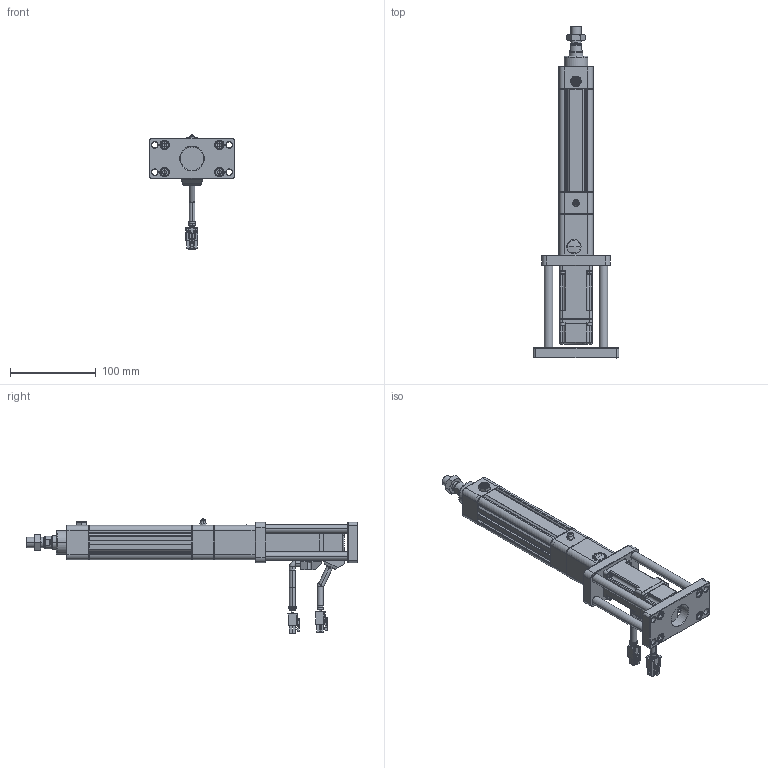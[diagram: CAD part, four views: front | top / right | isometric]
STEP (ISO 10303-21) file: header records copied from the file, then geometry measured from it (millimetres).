
FILE_DESCRIPTION((''),'2;1');
FILE_NAME('HE32-D-100-2-5_ASM','2020-04-30T',('ASUS20200'),(''),'CREO PARAMETRIC BY PTC INC, 2014190','CREO PARAMETRIC BY PTC INC, 2014190','');
FILE_SCHEMA(('CONFIG_CONTROL_DESIGN'));
Length unit declared in the file: millimetre
Products named in the file (28): HE32-001-X1; HE32-002-X1; HE32-003-X1; 636ZZ; HE32-007-X1; HE32-008-X1; 1_1; 2_1; 3_1; 4_1; 5_1; 6_1; 7_1; ASM0001_ASM; TF1622-20; SLM-01; YZ-M6X1; SKT-13; HE32-40N-FB-LG10; F-HE32FB; M6X16; HE32-005-X1; HE32-004-X1; HE32-D-P-008-X1; LGLM-M6-22; TD-3; M3X16; HE32-D-100-2-5_ASM
Assembly tree (46 placements, depth 3):
  HE32-D-100-2-5_ASM
    HE32-001-X1
    HE32-002-X1
    HE32-003-X1
    636ZZ
    HE32-007-X1
    HE32-008-X1
    ASM0001_ASM
      1_1
      2_1
      3_1
      4_1
      5_1
      6_1
      7_1
    TF1622-20
    SLM-01
    YZ-M6X1
    SKT-13
    HE32-40N-FB-LG10  x4
    F-HE32FB
    M6X16  x8
    HE32-005-X1
    HE32-004-X1
    HE32-D-P-008-X1
    LGLM-M6-22  x4
    TD-3  x4
    M3X16  x4
Bounding box: 100 x 388 x 134.2 mm (x, y, z)
Volume: 480226.4 mm3; surface area: 206211.5 mm2
Topology: 45 solids, 74 shells, 2549 faces, 6053 edges, 3724 vertices
Faces by surface type: plane 1060, cylinder 729, cone 636, torus 94, bspline 18, sphere 12
Entity records: 62511 total; most frequent: CARTESIAN_POINT 12162, DIRECTION 11038, ORIENTED_EDGE 9870, EDGE_CURVE 4975, AXIS2_PLACEMENT_3D 4130, VERTEX_POINT 3095, VECTOR 2778, LINE 2778
